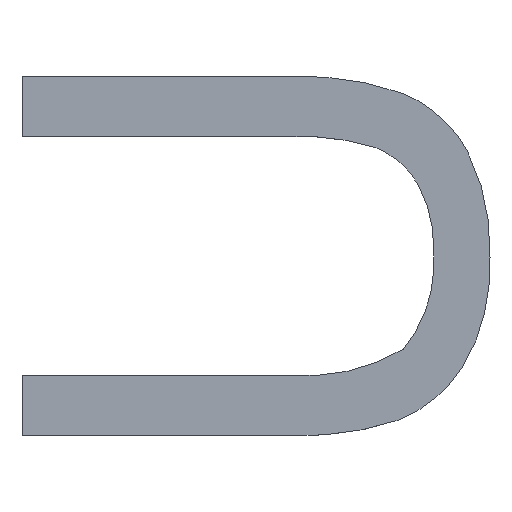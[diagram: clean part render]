
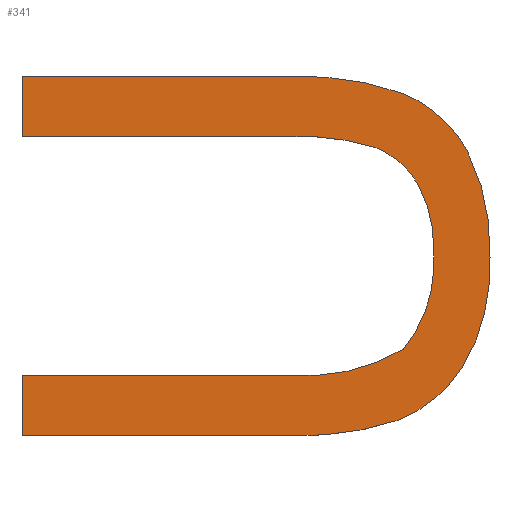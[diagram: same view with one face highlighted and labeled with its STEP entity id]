
A CAD part, top view. The second image highlights one B-rep face of the part: STEP entity #341.
In plain terms, the highlighted planar face has unit normal (0, 0, 1).
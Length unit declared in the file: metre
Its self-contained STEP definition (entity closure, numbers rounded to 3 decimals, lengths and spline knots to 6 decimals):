
#13=CIRCLE('',#352,0.000453);
#15=CIRCLE('',#355,0.000316);
#17=CIRCLE('',#358,0.000325);
#19=CIRCLE('',#361,0.000205);
#21=CIRCLE('',#364,0.000661);
#23=CIRCLE('',#370,0.000772);
#25=CIRCLE('',#373,0.000309);
#27=CIRCLE('',#376,0.000539);
#29=CIRCLE('',#379,0.000489);
#31=CIRCLE('',#382,0.000327);
#33=CIRCLE('',#385,0.000789);
#125=ORIENTED_EDGE('',*,*,#209,.T.);
#126=ORIENTED_EDGE('',*,*,#207,.T.);
#127=ORIENTED_EDGE('',*,*,#204,.T.);
#128=ORIENTED_EDGE('',*,*,#201,.T.);
#129=ORIENTED_EDGE('',*,*,#198,.T.);
#130=ORIENTED_EDGE('',*,*,#195,.T.);
#131=ORIENTED_EDGE('',*,*,#192,.T.);
#132=ORIENTED_EDGE('',*,*,#189,.T.);
#133=ORIENTED_EDGE('',*,*,#186,.T.);
#134=ORIENTED_EDGE('',*,*,#183,.T.);
#135=ORIENTED_EDGE('',*,*,#180,.T.);
#136=ORIENTED_EDGE('',*,*,#177,.T.);
#137=ORIENTED_EDGE('',*,*,#174,.T.);
#138=ORIENTED_EDGE('',*,*,#171,.T.);
#139=ORIENTED_EDGE('',*,*,#168,.T.);
#140=ORIENTED_EDGE('',*,*,#165,.T.);
#141=ORIENTED_EDGE('',*,*,#162,.T.);
#162=EDGE_CURVE('',#210,#213,#247,.T.);
#165=EDGE_CURVE('',#214,#210,#249,.T.);
#168=EDGE_CURVE('',#216,#214,#13,.T.);
#171=EDGE_CURVE('',#218,#216,#15,.T.);
#174=EDGE_CURVE('',#220,#218,#17,.T.);
#177=EDGE_CURVE('',#222,#220,#19,.T.);
#180=EDGE_CURVE('',#224,#222,#21,.T.);
#183=EDGE_CURVE('',#226,#224,#253,.F.);
#186=EDGE_CURVE('',#228,#226,#256,.T.);
#189=EDGE_CURVE('',#230,#228,#258,.T.);
#192=EDGE_CURVE('',#232,#230,#23,.F.);
#195=EDGE_CURVE('',#234,#232,#25,.F.);
#198=EDGE_CURVE('',#236,#234,#27,.F.);
#201=EDGE_CURVE('',#238,#236,#29,.F.);
#204=EDGE_CURVE('',#240,#238,#31,.F.);
#207=EDGE_CURVE('',#242,#240,#33,.F.);
#209=EDGE_CURVE('',#213,#242,#260,.F.);
#210=VERTEX_POINT('',#493);
#213=VERTEX_POINT('',#498);
#214=VERTEX_POINT('',#505);
#216=VERTEX_POINT('',#511);
#218=VERTEX_POINT('',#520);
#220=VERTEX_POINT('',#529);
#222=VERTEX_POINT('',#538);
#224=VERTEX_POINT('',#547);
#226=VERTEX_POINT('',#553);
#228=VERTEX_POINT('',#559);
#230=VERTEX_POINT('',#568);
#232=VERTEX_POINT('',#577);
#234=VERTEX_POINT('',#586);
#236=VERTEX_POINT('',#595);
#238=VERTEX_POINT('',#604);
#240=VERTEX_POINT('',#613);
#242=VERTEX_POINT('',#622);
#247=LINE('',#499,#264);
#249=LINE('',#508,#266);
#253=LINE('',#556,#270);
#256=LINE('',#562,#273);
#258=LINE('',#571,#275);
#260=LINE('',#628,#277);
#264=VECTOR('',#396,1.);
#266=VECTOR('',#400,1.);
#270=VECTOR('',#436,1.);
#273=VECTOR('',#441,1.);
#275=VECTOR('',#445,1.);
#277=VECTOR('',#485,1.);
#295=EDGE_LOOP('',(#125,#126,#127,#128,#129,#130,#131,#132,#133,#134,#135,
#136,#137,#138,#139,#140,#141));
#314=FACE_BOUND('',#295,.T.);
#322=PLANE('',#387);
#341=ADVANCED_FACE('',(#314),#322,.F.);
#352=AXIS2_PLACEMENT_3D('',#514,#406,#407);
#355=AXIS2_PLACEMENT_3D('',#523,#412,#413);
#358=AXIS2_PLACEMENT_3D('',#532,#418,#419);
#361=AXIS2_PLACEMENT_3D('',#541,#424,#425);
#364=AXIS2_PLACEMENT_3D('',#550,#430,#431);
#370=AXIS2_PLACEMENT_3D('',#580,#450,#451);
#373=AXIS2_PLACEMENT_3D('',#589,#456,#457);
#376=AXIS2_PLACEMENT_3D('',#598,#462,#463);
#379=AXIS2_PLACEMENT_3D('',#607,#468,#469);
#382=AXIS2_PLACEMENT_3D('',#616,#474,#475);
#385=AXIS2_PLACEMENT_3D('',#625,#480,#481);
#387=AXIS2_PLACEMENT_3D('',#629,#486,#487);
#396=DIRECTION('',(0.,-1.,0.));
#400=DIRECTION('',(-1.,0.,0.));
#406=DIRECTION('',(0.,0.,-1.));
#407=DIRECTION('',(1.,0.,0.));
#412=DIRECTION('',(0.,0.,-1.));
#413=DIRECTION('',(1.,0.,0.));
#418=DIRECTION('',(0.,0.,-1.));
#419=DIRECTION('',(1.,0.,0.));
#424=DIRECTION('',(0.,0.,-1.));
#425=DIRECTION('',(1.,0.,0.));
#430=DIRECTION('',(0.,0.,-1.));
#431=DIRECTION('',(1.,0.,0.));
#436=DIRECTION('',(-1.,0.,0.));
#441=DIRECTION('',(0.,-1.,0.));
#445=DIRECTION('',(-1.,0.,0.));
#450=DIRECTION('',(0.,0.,-1.));
#451=DIRECTION('',(1.,0.,0.));
#456=DIRECTION('',(0.,0.,-1.));
#457=DIRECTION('',(1.,0.,0.));
#462=DIRECTION('',(0.,0.,-1.));
#463=DIRECTION('',(1.,0.,0.));
#468=DIRECTION('',(0.,0.,-1.));
#469=DIRECTION('',(1.,0.,0.));
#474=DIRECTION('',(0.,0.,-1.));
#475=DIRECTION('',(1.,0.,0.));
#480=DIRECTION('',(0.,0.,-1.));
#481=DIRECTION('',(1.,0.,0.));
#485=DIRECTION('',(-1.,0.,0.));
#486=DIRECTION('',(0.,0.,-1.));
#487=DIRECTION('',(0.,-1.,0.));
#493=CARTESIAN_POINT('',(-0.02331,-0.006245,-0.03));
#498=CARTESIAN_POINT('',(-0.02331,-0.006392,-0.03));
#499=CARTESIAN_POINT('',(-0.02331,-0.005953,-0.03));
#505=CARTESIAN_POINT('',(-0.022665,-0.006245,-0.03));
#508=CARTESIAN_POINT('',(-0.022717,-0.006245,-0.03));
#511=CARTESIAN_POINT('',(-0.022381,-0.006181,-0.03));
#514=CARTESIAN_POINT('',(-0.022614,-0.005792,-0.03));
#520=CARTESIAN_POINT('',(-0.022306,-0.005943,-0.03));
#523=CARTESIAN_POINT('',(-0.022623,-0.005976,-0.03));
#529=CARTESIAN_POINT('',(-0.022343,-0.005782,-0.03));
#532=CARTESIAN_POINT('',(-0.022631,-0.005931,-0.03));
#538=CARTESIAN_POINT('',(-0.02245,-0.005688,-0.03));
#541=CARTESIAN_POINT('',(-0.022524,-0.00588,-0.03));
#547=CARTESIAN_POINT('',(-0.022665,-0.005661,-0.03));
#550=CARTESIAN_POINT('',(-0.022632,-0.006323,-0.03));
#553=CARTESIAN_POINT('',(-0.02331,-0.005661,-0.03));
#556=CARTESIAN_POINT('',(-0.022717,-0.005661,-0.03));
#559=CARTESIAN_POINT('',(-0.02331,-0.005515,-0.03));
#562=CARTESIAN_POINT('',(-0.02331,-0.005953,-0.03));
#568=CARTESIAN_POINT('',(-0.022662,-0.005515,-0.03));
#571=CARTESIAN_POINT('',(-0.022717,-0.005515,-0.03));
#577=CARTESIAN_POINT('',(-0.022381,-0.005557,-0.03));
#580=CARTESIAN_POINT('',(-0.022629,-0.006287,-0.03));
#586=CARTESIAN_POINT('',(-0.022223,-0.005699,-0.03));
#589=CARTESIAN_POINT('',(-0.022497,-0.005844,-0.03));
#595=CARTESIAN_POINT('',(-0.022169,-0.005956,-0.03));
#598=CARTESIAN_POINT('',(-0.022708,-0.005932,-0.03));
#604=CARTESIAN_POINT('',(-0.022231,-0.006216,-0.03));
#607=CARTESIAN_POINT('',(-0.022659,-0.00598,-0.03));
#613=CARTESIAN_POINT('',(-0.022393,-0.006354,-0.03));
#616=CARTESIAN_POINT('',(-0.022513,-0.00605,-0.03));
#622=CARTESIAN_POINT('',(-0.022662,-0.006392,-0.03));
#625=CARTESIAN_POINT('',(-0.022631,-0.005602,-0.03));
#628=CARTESIAN_POINT('',(-0.022717,-0.006392,-0.03));
#629=CARTESIAN_POINT('',(-0.022717,-0.005953,-0.03));
